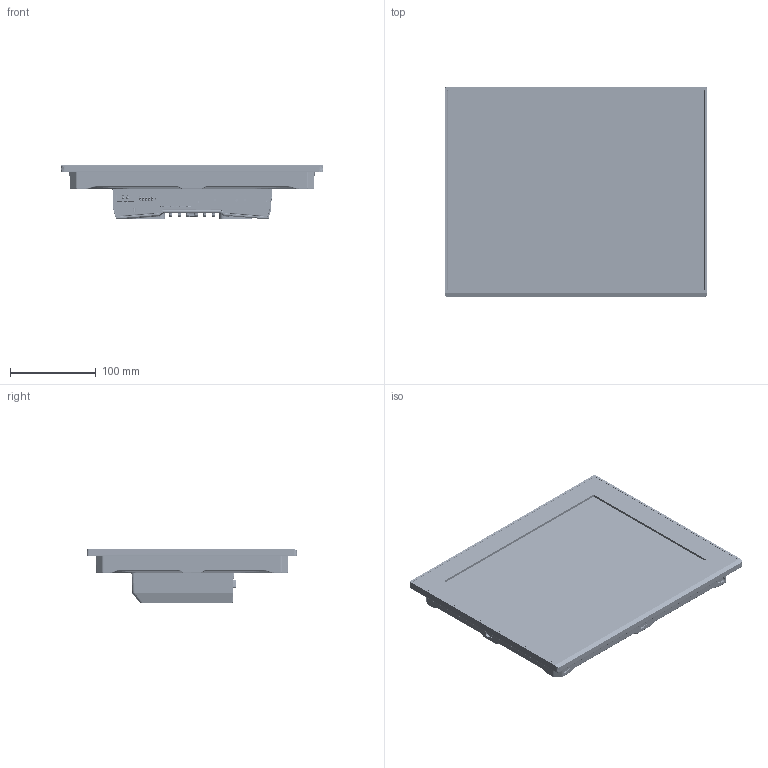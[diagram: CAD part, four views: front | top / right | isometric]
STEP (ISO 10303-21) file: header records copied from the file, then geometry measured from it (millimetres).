
FILE_DESCRIPTION((''),'2;1');
FILE_NAME('MPC-2120_SYSTEM-ASSEMBLY','2018-02-08T',('Justin_Huang'),(''),'PRO/ENGINEER BY PARAMETRIC TECHNOLOGY CORPORATION, 2013230','PRO/ENGINEER BY PARAMETRIC TECHNOLOGY CORPORATION, 2013230','');
FILE_SCHEMA(('AUTOMOTIVE_DESIGN { 1 0 10303 214 1 1 1 1 }'));
Products named in the file (1): MPC-2120_SYSTEM-ASSEMBLY
Bounding box: 306.37 x 245.26 x 64.01 mm (x, y, z)
Surface area: 565590.5 mm2 (no closed solid volume)
Topology: 0 solids, 69 shells, 6706 faces, 16128 edges, 9473 vertices
Faces by surface type: plane 2803, cylinder 2280, bspline 960, sphere 261, torus 218, cone 176, revolution 8
Entity records: 244680 total; most frequent: CARTESIAN_POINT 100166, ORIENTED_EDGE 31673, DIRECTION 27052, EDGE_CURVE 15992, AXIS2_PLACEMENT_3D 9580, VERTEX_POINT 9459, VECTOR 7884, LINE 7884
